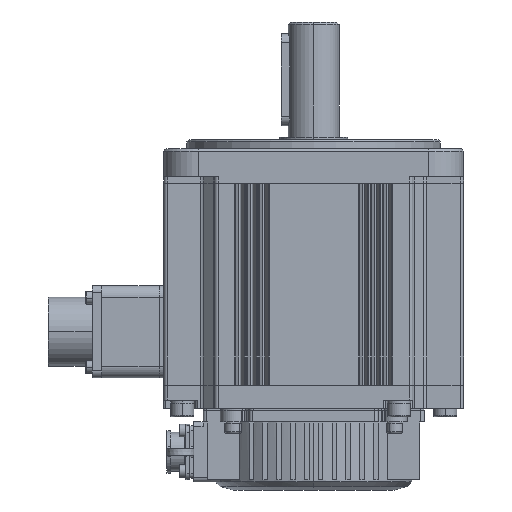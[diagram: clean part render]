
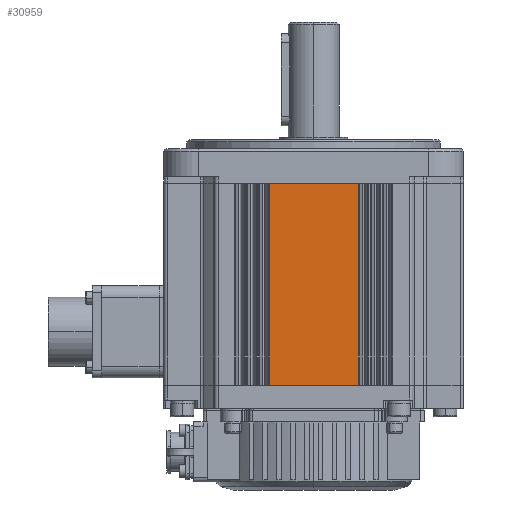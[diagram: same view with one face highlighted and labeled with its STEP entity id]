
A CAD part, front view. The second image highlights one B-rep face of the part: STEP entity #30959.
In plain terms, the highlighted planar face has unit normal (0, -1, 0).
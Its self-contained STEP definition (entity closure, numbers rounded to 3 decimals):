
#1008 = DIRECTION ( 'NONE',  ( -1., 0., 0. ) ) ;
#1993 = VECTOR ( 'NONE', #41913, 1000. ) ;
#4173 = CARTESIAN_POINT ( 'NONE',  ( 0., -65., 43.75 ) ) ;
#5586 = CARTESIAN_POINT ( 'NONE',  ( 0., -65., -43.75 ) ) ;
#6010 = CARTESIAN_POINT ( 'NONE',  ( 0., -65., -43.75 ) ) ;
#8535 = CARTESIAN_POINT ( 'NONE',  ( -19.307, -65., -43.75 ) ) ;
#9802 = VECTOR ( 'NONE', #1008, 1000. ) ;
#14582 = EDGE_CURVE ( 'NONE', #37396, #43055, #34904, .T. ) ;
#14599 = LINE ( 'NONE', #4173, #1993 ) ;
#15296 = EDGE_LOOP ( 'NONE', ( #34306, #60073, #19906, #20799 ) ) ;
#16160 = CARTESIAN_POINT ( 'NONE',  ( -19.307, -65., -43.75 ) ) ;
#19906 = ORIENTED_EDGE ( 'NONE', *, *, #14582, .F. ) ;
#20252 = PLANE ( 'NONE',  #34215 ) ;
#20799 = ORIENTED_EDGE ( 'NONE', *, *, #59110, .T. ) ;
#24984 = DIRECTION ( 'NONE',  ( 0., 0., 1. ) ) ;
#26017 = VERTEX_POINT ( 'NONE', #48854 ) ;
#26415 = VECTOR ( 'NONE', #60532, 1000. ) ;
#30632 = EDGE_CURVE ( 'NONE', #43055, #57538, #54474, .T. ) ;
#30959 = ADVANCED_FACE ( 'NONE', ( #41876 ), #20252, .F. ) ;
#31464 = CARTESIAN_POINT ( 'NONE',  ( 19.307, -65., -43.75 ) ) ;
#34215 = AXIS2_PLACEMENT_3D ( 'NONE', #6010, #53267, #24984 ) ;
#34306 = ORIENTED_EDGE ( 'NONE', *, *, #53061, .T. ) ;
#34904 = LINE ( 'NONE', #5586, #9802 ) ;
#34950 = DIRECTION ( 'NONE',  ( 0., 0., 1. ) ) ;
#37396 = VERTEX_POINT ( 'NONE', #31464 ) ;
#41876 = FACE_OUTER_BOUND ( 'NONE', #15296, .T. ) ;
#41913 = DIRECTION ( 'NONE',  ( -1., 0., 0. ) ) ;
#43055 = VERTEX_POINT ( 'NONE', #16160 ) ;
#45614 = CARTESIAN_POINT ( 'NONE',  ( -19.307, -65., 43.75 ) ) ;
#45980 = VECTOR ( 'NONE', #34950, 1000. ) ;
#48854 = CARTESIAN_POINT ( 'NONE',  ( 19.307, -65., 43.75 ) ) ;
#53061 = EDGE_CURVE ( 'NONE', #26017, #57538, #14599, .T. ) ;
#53267 = DIRECTION ( 'NONE',  ( 0., 1., 0. ) ) ;
#53914 = CARTESIAN_POINT ( 'NONE',  ( 19.307, -65., -43.75 ) ) ;
#54474 = LINE ( 'NONE', #8535, #26415 ) ;
#57538 = VERTEX_POINT ( 'NONE', #45614 ) ;
#59110 = EDGE_CURVE ( 'NONE', #37396, #26017, #60011, .T. ) ;
#60011 = LINE ( 'NONE', #53914, #45980 ) ;
#60073 = ORIENTED_EDGE ( 'NONE', *, *, #30632, .F. ) ;
#60532 = DIRECTION ( 'NONE',  ( 0., 0., 1. ) ) ;
